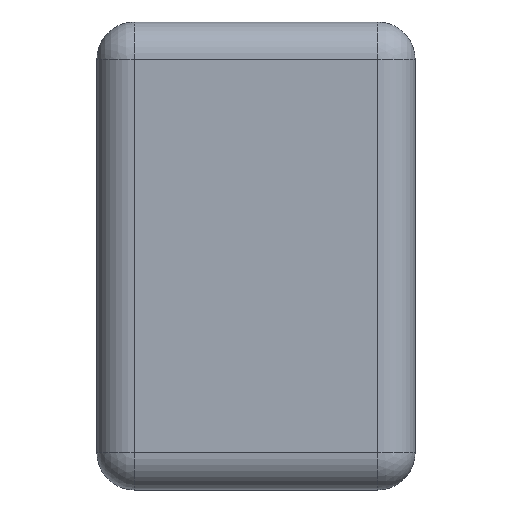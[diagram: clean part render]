
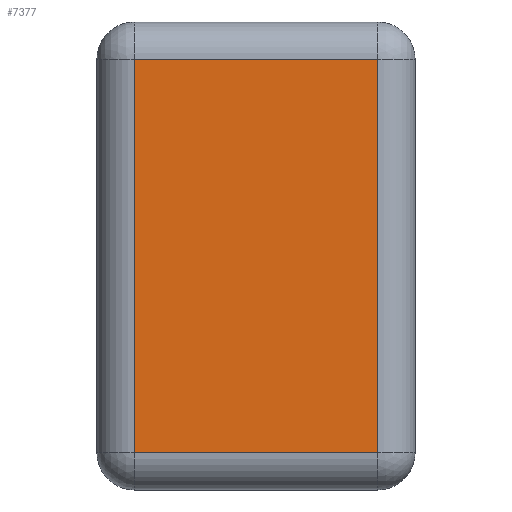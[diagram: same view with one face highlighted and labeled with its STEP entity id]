
A CAD part, left-side view. The second image highlights one B-rep face of the part: STEP entity #7377.
In plain terms, the highlighted planar face has unit normal (-1, 0, 0).
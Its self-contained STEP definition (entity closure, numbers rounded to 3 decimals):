
#2099 = LINE ( 'NONE', #2100, #6464 ) ;
#2100 = CARTESIAN_POINT ( 'NONE',  ( -1., 0.325, 0.625 ) ) ;
#2101 = DIRECTION ( 'NONE',  ( 0., 0., -1. ) ) ;
#2342 = LINE ( 'NONE', #2343, #6474 ) ;
#2343 = CARTESIAN_POINT ( 'NONE',  ( -1., -0.325, 0.625 ) ) ;
#2344 = DIRECTION ( 'NONE',  ( 0., 0., 1. ) ) ;
#2636 = LINE ( 'NONE', #2637, #6596 ) ;
#2637 = CARTESIAN_POINT ( 'NONE',  ( -1., 0.425, -0.525 ) ) ;
#2638 = DIRECTION ( 'NONE',  ( 0., -1., 0. ) ) ;
#3162 = LINE ( 'NONE', #3163, #8563 ) ;
#3163 = CARTESIAN_POINT ( 'NONE',  ( -1., 0.425, 0.525 ) ) ;
#3164 = DIRECTION ( 'NONE',  ( 0., 1., 0. ) ) ;
#5118 = VERTEX_POINT ( 'NONE', #7110 ) ;
#5122 = VERTEX_POINT ( 'NONE', #7114 ) ;
#5130 = VERTEX_POINT ( 'NONE', #7122 ) ;
#5131 = VERTEX_POINT ( 'NONE', #7123 ) ;
#5347 = PLANE ( 'NONE',  #7579 ) ;
#5348 = CARTESIAN_POINT ( 'NONE',  ( -1., 0.425, 0.625 ) ) ;
#5349 = DIRECTION ( 'NONE',  ( 1., 0., 0. ) ) ;
#5350 = DIRECTION ( 'NONE',  ( 0., 0., -1. ) ) ;
#6464 = VECTOR ( 'NONE', #2101, 1000. ) ;
#6474 = VECTOR ( 'NONE', #2344, 1000. ) ;
#6596 = VECTOR ( 'NONE', #2638, 1000. ) ;
#7110 = CARTESIAN_POINT ( 'NONE',  ( -1., 0.325, 0.525 ) ) ;
#7114 = CARTESIAN_POINT ( 'NONE',  ( -1., 0.325, -0.525 ) ) ;
#7122 = CARTESIAN_POINT ( 'NONE',  ( -1., -0.325, 0.525 ) ) ;
#7123 = CARTESIAN_POINT ( 'NONE',  ( -1., -0.325, -0.525 ) ) ;
#7377 = ADVANCED_FACE ( 'NONE', ( #7598 ), #5347, .F. ) ;
#7579 = AXIS2_PLACEMENT_3D ( 'NONE', #5348, #5349, #5350 ) ;
#7598 = FACE_OUTER_BOUND ( 'NONE', #9124, .T. ) ;
#8563 = VECTOR ( 'NONE', #3164, 1000. ) ;
#9085 = ORIENTED_EDGE ( 'NONE', *, *, #9427, .T. ) ;
#9086 = ORIENTED_EDGE ( 'NONE', *, *, #9380, .T. ) ;
#9087 = ORIENTED_EDGE ( 'NONE', *, *, #9353, .T. ) ;
#9088 = ORIENTED_EDGE ( 'NONE', *, *, #9329, .T. ) ;
#9124 = EDGE_LOOP ( 'NONE', ( #9088, #9086, #9087, #9085 ) ) ;
#9329 = EDGE_CURVE ( 'NONE', #5118, #5122, #2099, .T. ) ;
#9353 = EDGE_CURVE ( 'NONE', #5131, #5130, #2342, .T. ) ;
#9380 = EDGE_CURVE ( 'NONE', #5122, #5131, #2636, .T. ) ;
#9427 = EDGE_CURVE ( 'NONE', #5130, #5118, #3162, .T. ) ;
